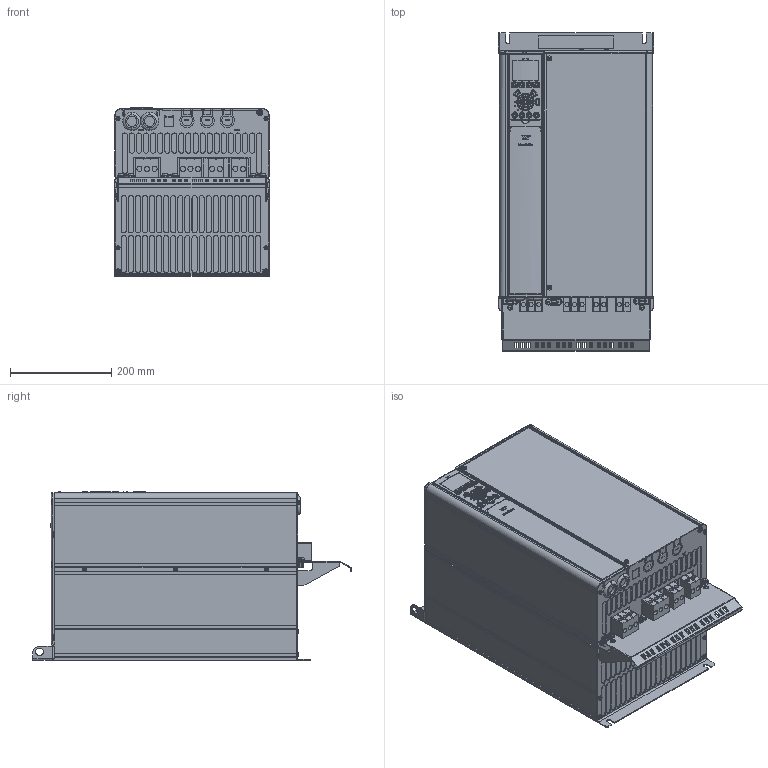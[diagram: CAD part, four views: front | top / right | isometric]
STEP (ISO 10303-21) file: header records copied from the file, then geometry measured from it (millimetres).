
FILE_DESCRIPTION((''),'2;1');
FILE_NAME('DANFOSS-FC300-C3-IP20-123','2007-07-09T',('janardhan.mankala'),('dan Drives A/S'),'PRO/ENGINEER BY PARAMETRIC TECHNOLOGY CORPORATION, 2006200','PRO/ENGINEER BY PARAMETRIC TECHNOLOGY CORPORATION, 2006200','');
FILE_SCHEMA(('CONFIG_CONTROL_DESIGN', 'GEOMETRIC_VALIDATION_PROPERTIES_MIM'));
Products named in the file (1): DANFOSS-FC300-C3-IP20-123
Bounding box: 308 x 630 x 334.26 mm (x, y, z)
Volume: 45422971.8 mm3; surface area: 2010238.1 mm2
Topology: 1 solids, 39 shells, 5899 faces, 16117 edges, 10423 vertices
Faces by surface type: plane 3258, cylinder 1556, bspline 606, extrusion 174, torus 140, cone 94, sphere 71
Entity records: 336818 total; most frequent: CARTESIAN_POINT 117864, ORIENTED_EDGE 32080, DIRECTION 26595, PRESENTATION_STYLE_ASSIGNMENT 18665, STYLED_ITEM 16045, CURVE_STYLE 16040, EDGE_CURVE 16040, VERTEX_POINT 10423
